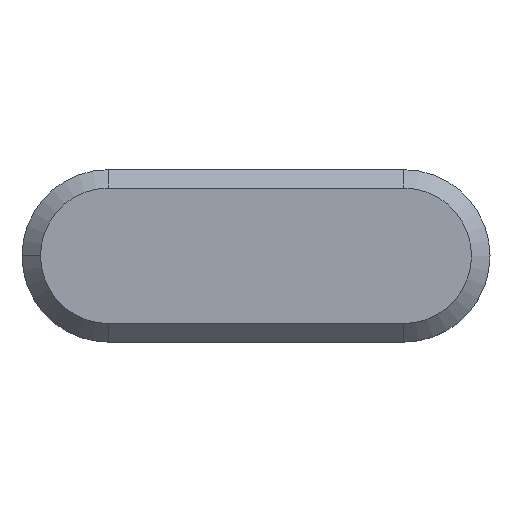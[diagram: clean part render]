
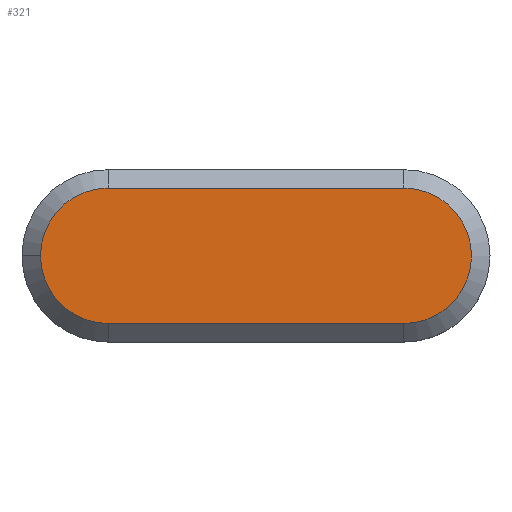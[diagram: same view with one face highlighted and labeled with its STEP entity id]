
A CAD part, top view. The second image highlights one B-rep face of the part: STEP entity #321.
In plain terms, the highlighted planar face has unit normal (0, 0, 1).
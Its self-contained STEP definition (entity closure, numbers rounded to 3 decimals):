
#25 = DIRECTION ( 'NONE',  ( 1., 0., 0. ) ) ;
#51 = CIRCLE ( 'NONE', #671, 2.75 ) ;
#68 = VERTEX_POINT ( 'NONE', #691 ) ;
#87 = DIRECTION ( 'NONE',  ( -1., 0., 0. ) ) ;
#94 = DIRECTION ( 'NONE',  ( 0., 0., 1. ) ) ;
#103 = CARTESIAN_POINT ( 'NONE',  ( 0., 0., 7.5 ) ) ;
#187 = DIRECTION ( 'NONE',  ( 0., 0., 1. ) ) ;
#192 = DIRECTION ( 'NONE',  ( 1., 0., 0. ) ) ;
#198 = ORIENTED_EDGE ( 'NONE', *, *, #601, .T. ) ;
#258 = ORIENTED_EDGE ( 'NONE', *, *, #1040, .T. ) ;
#293 = CARTESIAN_POINT ( 'NONE',  ( 12., -2.75, 7.5 ) ) ;
#321 = ADVANCED_FACE ( 'NONE', ( #1240 ), #1061, .T. ) ;
#341 = CIRCLE ( 'NONE', #382, 2.75 ) ;
#376 = LINE ( 'NONE', #775, #738 ) ;
#381 = CIRCLE ( 'NONE', #1068, 2.75 ) ;
#382 = AXIS2_PLACEMENT_3D ( 'NONE', #499, #94, #488 ) ;
#459 = DIRECTION ( 'NONE',  ( 0., 0., 1. ) ) ;
#461 = ORIENTED_EDGE ( 'NONE', *, *, #1166, .T. ) ;
#463 = VECTOR ( 'NONE', #25, 1000. ) ;
#473 = EDGE_CURVE ( 'NONE', #822, #771, #1012, .T. ) ;
#488 = DIRECTION ( 'NONE',  ( 1., 0., 0. ) ) ;
#499 = CARTESIAN_POINT ( 'NONE',  ( 12., 0., 7.5 ) ) ;
#506 = VERTEX_POINT ( 'NONE', #804 ) ;
#582 = CARTESIAN_POINT ( 'NONE',  ( 0., 0., 7.5 ) ) ;
#598 = DIRECTION ( 'NONE',  ( 0., 0., 1. ) ) ;
#601 = EDGE_CURVE ( 'NONE', #1178, #506, #381, .T. ) ;
#616 = CARTESIAN_POINT ( 'NONE',  ( 0., -2.75, 7.5 ) ) ;
#671 = AXIS2_PLACEMENT_3D ( 'NONE', #103, #598, #1281 ) ;
#691 = CARTESIAN_POINT ( 'NONE',  ( 12., 2.75, 7.5 ) ) ;
#738 = VECTOR ( 'NONE', #87, 1000. ) ;
#771 = VERTEX_POINT ( 'NONE', #293 ) ;
#775 = CARTESIAN_POINT ( 'NONE',  ( 0., 2.75, 7.5 ) ) ;
#796 = CARTESIAN_POINT ( 'NONE',  ( 0., -2.75, 7.5 ) ) ;
#801 = CARTESIAN_POINT ( 'NONE',  ( 0., 2.75, 7.5 ) ) ;
#804 = CARTESIAN_POINT ( 'NONE',  ( -2.75, 0., 7.5 ) ) ;
#822 = VERTEX_POINT ( 'NONE', #616 ) ;
#860 = DIRECTION ( 'NONE',  ( 1., 0., 0. ) ) ;
#1012 = LINE ( 'NONE', #796, #463 ) ;
#1016 = ORIENTED_EDGE ( 'NONE', *, *, #473, .T. ) ;
#1040 = EDGE_CURVE ( 'NONE', #68, #1178, #376, .T. ) ;
#1061 = PLANE ( 'NONE',  #1107 ) ;
#1068 = AXIS2_PLACEMENT_3D ( 'NONE', #582, #187, #192 ) ;
#1107 = AXIS2_PLACEMENT_3D ( 'NONE', #1155, #459, #860 ) ;
#1136 = EDGE_CURVE ( 'NONE', #506, #822, #51, .T. ) ;
#1155 = CARTESIAN_POINT ( 'NONE',  ( 0., 0., 7.5 ) ) ;
#1164 = EDGE_LOOP ( 'NONE', ( #461, #258, #198, #1227, #1016 ) ) ;
#1166 = EDGE_CURVE ( 'NONE', #771, #68, #341, .T. ) ;
#1178 = VERTEX_POINT ( 'NONE', #801 ) ;
#1227 = ORIENTED_EDGE ( 'NONE', *, *, #1136, .T. ) ;
#1240 = FACE_OUTER_BOUND ( 'NONE', #1164, .T. ) ;
#1281 = DIRECTION ( 'NONE',  ( 1., 0., 0. ) ) ;
